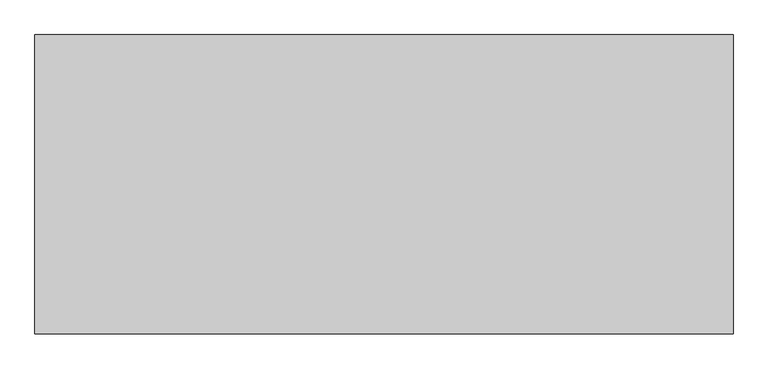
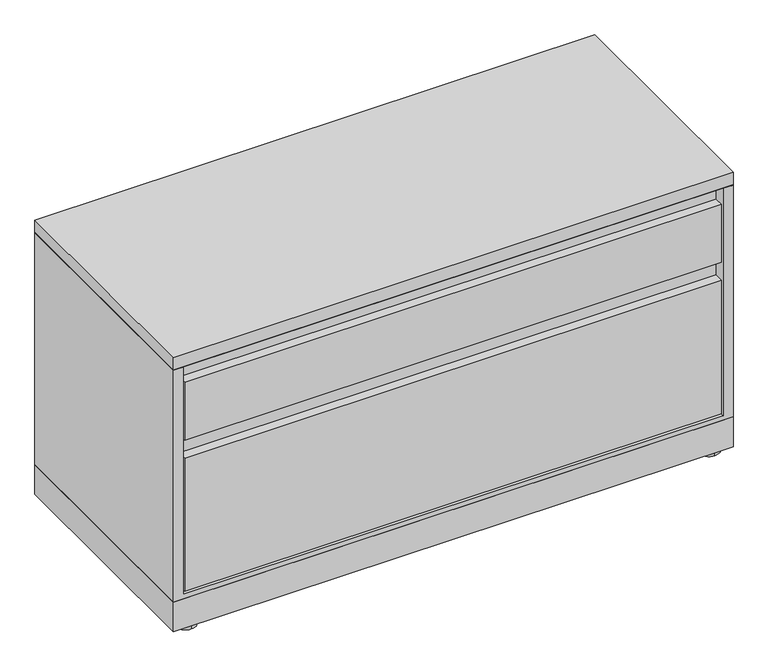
"""IFC4 building model written with IfcOpenShell, lengths in millimetres: furniture geometry, Steelcase - Universal Storage - Lateral File - 1.5 High - Flush Steel : Drawer/Drawer - 18D x 42W."""

from ifc_helpers import new_model, si_unit, point, frame, frame_2d, origin, origin_with_axes, place, context, project, spatial, polyline, circle_curve, trimmed, segment, composite_curve, outline, extrude, faceted_brep, source, transform, mapped, element, save


def furniture_d2c78663(model_context):
    return source(origin(), model_context, "Body", "SolidModel", [
        extrude(outline(polyline([(1066.8, 457.2), (1066.8, 0.0), (0.0, 0.0), (0.0, 457.2), (1066.8, 457.2)])), frame((0.0, 0.0, 6.3500002), z_axis=(0.0, 0.0, 1.0), x_axis=(1.0, 0.0, 0.0)), (0.0, 0.0, 1.0), 59.6899998),
        extrude(outline(composite_curve([segment(trimmed(circle_curve(frame_2d((1032.1290058, 434.8633666)), 20.32), [point((1032.1290058, 414.5433666))], [point((1032.1290058, 455.1833666))], False, "CARTESIAN"), True, "CONTINUOUS"), segment(trimmed(circle_curve(frame_2d((1032.1290058, 434.8633666)), 20.32), [point((1032.1290058, 455.1833666))], [point((1032.1290058, 414.5433666))], False, "CARTESIAN"), True, "CONTINUOUS")], self_intersect=False)), origin_with_axes(), (0.0, 0.0, 1.0), 6.3500002),
        extrude(outline(composite_curve([segment(trimmed(circle_curve(frame_2d((1032.1290058, 20.7491455)), 20.32), [point((1032.1290058, 0.4291455))], [point((1032.1290058, 41.0691455))], False, "CARTESIAN"), True, "CONTINUOUS"), segment(trimmed(circle_curve(frame_2d((1032.1290058, 20.7491455)), 20.32), [point((1032.1290058, 41.0691455))], [point((1032.1290058, 0.4291455))], False, "CARTESIAN"), True, "CONTINUOUS")], self_intersect=False)), origin_with_axes(), (0.0, 0.0, 1.0), 6.3500002),
        extrude(outline(composite_curve([segment(trimmed(circle_curve(frame_2d((34.29, 434.8633666)), 20.32), [point((34.29, 455.1833666))], [point((34.29, 414.5433666))], False, "CARTESIAN"), True, "CONTINUOUS"), segment(trimmed(circle_curve(frame_2d((34.29, 434.8633666)), 20.32), [point((34.29, 414.5433666))], [point((34.29, 455.1833666))], False, "CARTESIAN"), True, "CONTINUOUS")], self_intersect=False)), origin_with_axes(), (0.0, 0.0, 1.0), 6.3500002),
        extrude(outline(composite_curve([segment(trimmed(circle_curve(frame_2d((34.29, 20.7491455)), 20.32), [point((34.29, 41.0691455))], [point((34.29, 0.4291455))], False, "CARTESIAN"), True, "CONTINUOUS"), segment(trimmed(circle_curve(frame_2d((34.29, 20.7491455)), 20.32), [point((34.29, 0.4291455))], [point((34.29, 41.0691455))], False, "CARTESIAN"), True, "CONTINUOUS")], self_intersect=False)), origin_with_axes(), (0.0, 0.0, 1.0), 6.3500002),
        extrude(outline(polyline([(437.7944128, 396.7988176), (437.7944128, 410.7687861), (440.969412, 410.7687861), (440.969412, 371.5257963), (26.822418, 371.5257963), (26.822418, 396.7988176), (437.7944128, 396.7988176)])), frame((22.0472, 0.0, 0.0), z_axis=(1.0, 0.0, 0.0), x_axis=(0.0, 1.0, 0.0)), (0.0, 0.0, 1.0), 1022.7056),
        extrude(outline(polyline([(1.45e-05, 534.0350121), (457.2, 534.0350121), (456.4379879, 533.273), (0.7620266, 533.273), (1.45e-05, 534.0350121)])), frame((0.0, 0.0, 0.0), z_axis=(1.0, 0.0, 0.0), x_axis=(0.0, 1.0, 0.0)), (0.0, 0.0, 1.0), 1066.8),
        extrude(outline(polyline([(1066.8, 457.2), (1066.8, 0.0), (0.0, 0.0), (0.0, 457.2), (1066.8, 457.2)])), frame((0.0, 0.0, 534.0350121), z_axis=(0.0, 0.0, 1.0), x_axis=(1.0, 0.0, 0.0)), (0.0, 0.0, 1.0), 24.6379729),
        faceted_brep([(1066.8, 0.0, 66.04), (1066.8, 457.2, 66.04), (1066.8, 457.2, 533.273), (1066.8, 0.0, 533.273), (0.0, 0.0, 533.273), (0.0, 457.2, 533.273), (0.0, 457.2, 66.04), (0.0, 0.0, 66.04), (1047.75, 0.0, 533.273), (1047.75, 0.0, 75.1586), (19.05, 0.0, 75.1586), (19.05, 0.0, 533.273), (19.05, 454.0249999, 533.273), (1047.75, 454.0249999, 533.273), (19.05, 454.0249999, 75.1586), (1047.75, 454.0249999, 75.1586)], [[[0, 1, 2, 3]], [[4, 5, 6, 7]], [[0, 3, 8, 9, 10, 11, 4, 7]], [[2, 1, 6, 5]], [[3, 2, 5, 4, 11, 12, 13, 8]], [[12, 14, 15, 13]], [[14, 12, 11, 10]], [[13, 15, 9, 8]], [[1, 0, 7, 6]], [[10, 9, 15, 14]]]),
        extrude(outline(polyline([(23.6541043, 79.2988025), (1.5178885, 79.2988025), (1.5178885, 348.1577823), (19.3741023, 348.1577823), (19.3741023, 378.7648167), (23.6541043, 378.7648167), (23.6541043, 79.2988025)])), frame((22.0472, 0.0, 0.0), z_axis=(1.0, 0.0, 0.0), x_axis=(0.0, 1.0, 0.0)), (0.0, 0.0, 1.0), 1022.7056),
        extrude(outline(polyline([(23.6541043, 384.1241916), (1.5178885, 384.1241916), (1.5178885, 501.1928089), (19.3741023, 501.1928089), (19.3741023, 531.799807), (23.6541043, 531.799807), (23.6541043, 384.1241916)])), frame((22.0472, 0.0, 0.0), z_axis=(1.0, 0.0, 0.0), x_axis=(0.0, 1.0, 0.0)), (0.0, 0.0, 1.0), 1022.7056),
    ])


if __name__ == "__main__":
    model = new_model("IFC4")
    model_context = context("Model", 3, world=origin())
    ifc_project = project(units=[si_unit("LENGTHUNIT", "METRE", prefix="MILLI")], contexts=[model_context])
    site = spatial("IfcSite", under=ifc_project)
    building = spatial("IfcBuilding", under=site)
    placement = place(None, origin())
    furniture_shape = furniture_d2c78663(model_context)
    element("IfcFurniture", 1, ObjectType="Steelcase - Universal Storage - Lateral File - 1.5 High - Flush Steel : Drawer/Drawer - 18D x 42W", at=placement, inside=building, context=model_context, shape_type="MappedRepresentation", body=[
        mapped(furniture_shape, transform((0.0, 0.0, 0.0), x_axis=(1.0, 0.0, 0.0), y_axis=(0.0, 1.0, 0.0), z_axis=(0.0, 0.0, 1.0))),
    ])
    save(model, "model.ifc")
